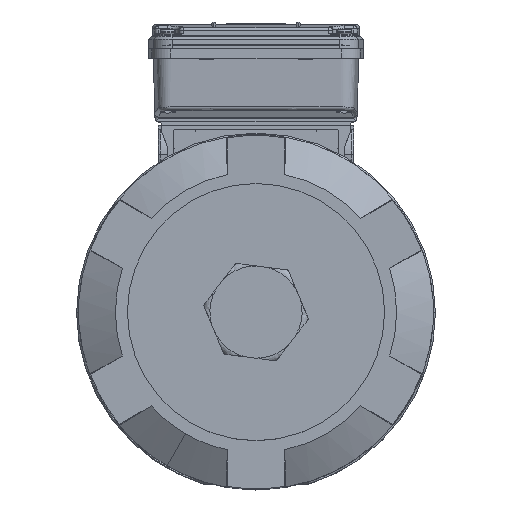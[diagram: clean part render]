
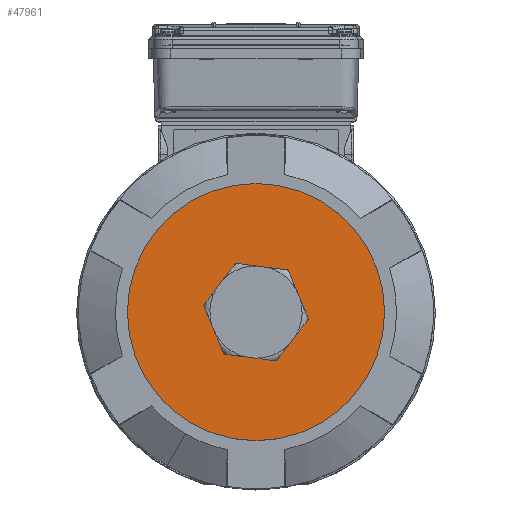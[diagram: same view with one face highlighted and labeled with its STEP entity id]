
A CAD part, top view. The second image highlights one B-rep face of the part: STEP entity #47961.
In plain terms, the highlighted planar face has unit normal (0, 0, 1) as drawn and (1, 0, 0) by its records, which use the part's own axes.
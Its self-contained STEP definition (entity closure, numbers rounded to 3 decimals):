
#318 = FACE_BOUND ( 'NONE', #116863, .T. ) ;
#6808 = DIRECTION ( 'NONE',  ( -1., 0., 0. ) ) ;
#7505 = AXIS2_PLACEMENT_3D ( 'NONE', #92936, #31613, #103288 ) ;
#8832 = CARTESIAN_POINT ( 'NONE',  ( 121.5, 0., 0. ) ) ;
#9383 = CARTESIAN_POINT ( 'NONE',  ( 121.5, 0., 67. ) ) ;
#11230 = CARTESIAN_POINT ( 'NONE',  ( 121.5, 0., 0. ) ) ;
#16676 = ORIENTED_EDGE ( 'NONE', *, *, #62004, .F. ) ;
#19170 = DIRECTION ( 'NONE',  ( 0., 0., -1. ) ) ;
#21567 = DIRECTION ( 'NONE',  ( 0., 0., 1. ) ) ;
#21875 = AXIS2_PLACEMENT_3D ( 'NONE', #11230, #82922, #21567 ) ;
#22961 = EDGE_LOOP ( 'NONE', ( #16676, #27943 ) ) ;
#27943 = ORIENTED_EDGE ( 'NONE', *, *, #71616, .F. ) ;
#31613 = DIRECTION ( 'NONE',  ( 1., 0., 0. ) ) ;
#44317 = EDGE_CURVE ( 'NONE', #127060, #111379, #105160, .T. ) ;
#45166 = DIRECTION ( 'NONE',  ( -1., 0., 0. ) ) ;
#47151 = PLANE ( 'NONE',  #79144 ) ;
#47961 = ADVANCED_FACE ( 'NONE', ( #318, #51636 ), #47151, .F. ) ;
#48226 = ORIENTED_EDGE ( 'NONE', *, *, #103047, .F. ) ;
#51636 = FACE_OUTER_BOUND ( 'NONE', #22961, .T. ) ;
#62004 = EDGE_CURVE ( 'NONE', #117993, #86198, #98104, .T. ) ;
#68206 = CARTESIAN_POINT ( 'NONE',  ( 121.5, 25.4, 0. ) ) ;
#71616 = EDGE_CURVE ( 'NONE', #86198, #117993, #118127, .T. ) ;
#78500 = DIRECTION ( 'NONE',  ( 0., 0., 1. ) ) ;
#79144 = AXIS2_PLACEMENT_3D ( 'NONE', #68206, #6808, #78500 ) ;
#80510 = DIRECTION ( 'NONE',  ( 1., 0., 0. ) ) ;
#82922 = DIRECTION ( 'NONE',  ( -1., 0., 0. ) ) ;
#86198 = VERTEX_POINT ( 'NONE', #97004 ) ;
#87301 = CIRCLE ( 'NONE', #126850, 19.25 ) ;
#92231 = ORIENTED_EDGE ( 'NONE', *, *, #44317, .F. ) ;
#92936 = CARTESIAN_POINT ( 'NONE',  ( 121.5, 0., 0. ) ) ;
#97004 = CARTESIAN_POINT ( 'NONE',  ( 121.5, 0., -67. ) ) ;
#98104 = CIRCLE ( 'NONE', #21875, 67. ) ;
#103047 = EDGE_CURVE ( 'NONE', #111379, #127060, #87301, .T. ) ;
#103288 = DIRECTION ( 'NONE',  ( 0., 0., -1. ) ) ;
#105160 = CIRCLE ( 'NONE', #7505, 19.25 ) ;
#106519 = CARTESIAN_POINT ( 'NONE',  ( 121.5, 0., 0. ) ) ;
#111379 = VERTEX_POINT ( 'NONE', #126329 ) ;
#116739 = DIRECTION ( 'NONE',  ( 0., 0., 1. ) ) ;
#116863 = EDGE_LOOP ( 'NONE', ( #92231, #48226 ) ) ;
#117993 = VERTEX_POINT ( 'NONE', #9383 ) ;
#118127 = CIRCLE ( 'NONE', #126560, 67. ) ;
#124170 = CARTESIAN_POINT ( 'NONE',  ( 121.5, 0., -19.25 ) ) ;
#126329 = CARTESIAN_POINT ( 'NONE',  ( 121.5, 0., 19.25 ) ) ;
#126560 = AXIS2_PLACEMENT_3D ( 'NONE', #106519, #45166, #116739 ) ;
#126850 = AXIS2_PLACEMENT_3D ( 'NONE', #8832, #80510, #19170 ) ;
#127060 = VERTEX_POINT ( 'NONE', #124170 ) ;
